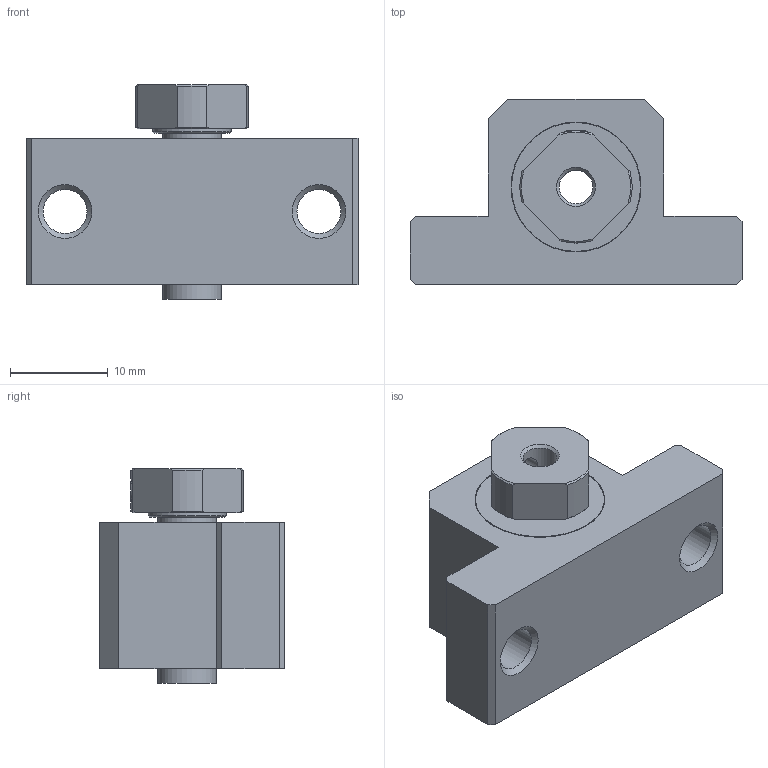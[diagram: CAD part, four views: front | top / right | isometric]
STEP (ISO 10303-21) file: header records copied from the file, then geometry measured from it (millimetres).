
FILE_DESCRIPTION(/* description */ ('STEP AP214'),/* implementation_level */ '2;1');
FILE_NAME(/* name */ 'EK4______CAD_NO_Yes',/* time_stamp */ '2026-09-17T12:51:22+02:00',/* author */ ('License CC BY-ND 4.0'),/* organization */ ('CADENAS'),/* preprocessor_version */ 'ST-DEVELOPER v20',/* originating_system */ 'PARTsolutions',/* authorisation */ ' ');
FILE_SCHEMA (('AUTOMOTIVE_DESIGN {1 0 10303 214 3 1 1}'));
Length unit declared in the file: millimetre
Products named in the file (4): EK4______CAD_NO_Yes; EK 4; EK 4collar; RN 4
Assembly tree (4 placements, depth 2):
  EK4______CAD_NO_Yes
    EK 4
    EK 4collar  x2
    RN 4
Bounding box: 34 x 19 x 22 mm (x, y, z)
Volume: 6739.9 mm3; surface area: 3513.9 mm2
Topology: 4 solids, 4 shells, 79 faces, 177 edges, 116 vertices
Faces by surface type: plane 42, cylinder 21, cone 16
Full cylindrical faces by diameter (mm): 2.113 x1, 2.6 x1, 3.459 x1, 4 x3, 4.5 x2, 6 x4, 8 x1, 13.2 x2, 13.3 x2
Entity records: 2137 total; most frequent: CARTESIAN_POINT 404, DIRECTION 340, ORIENTED_EDGE 292, EDGE_CURVE 146, AXIS2_PLACEMENT_3D 132, EDGE_LOOP 118, FACE_BOUND 118, VERTEX_POINT 110
